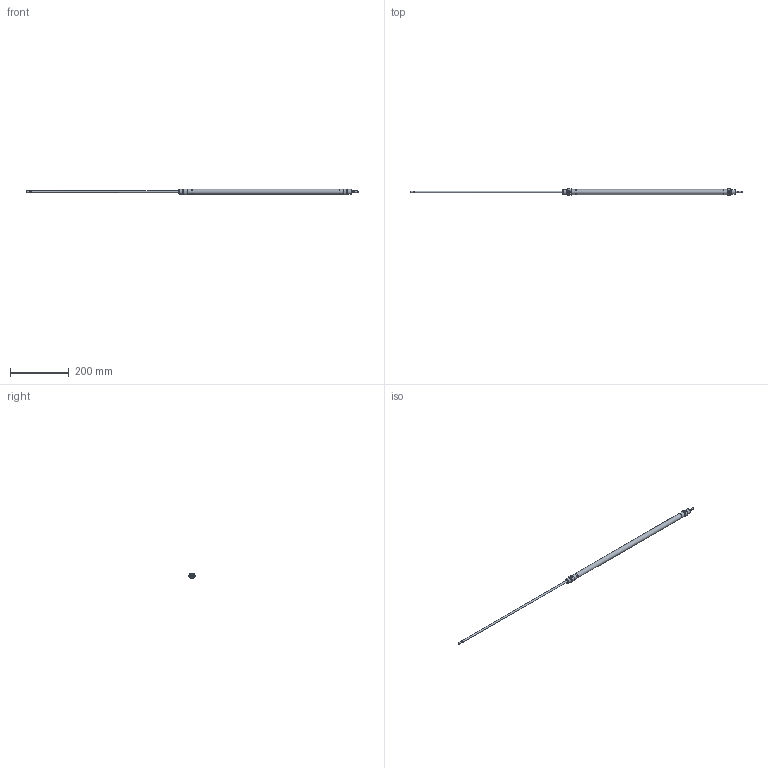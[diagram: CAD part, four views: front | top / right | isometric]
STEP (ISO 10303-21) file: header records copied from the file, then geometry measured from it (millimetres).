
FILE_DESCRIPTION( ( 'STEP AP203' ), '1' );
FILE_NAME( '//expscmdclustefs.cadenas.external/client_exchange/iodir/jobs/output/wkb68413754_no0/STEP/M101-016-0500-M__0__2_03.stp', ' ', ( ' ' ), ( ' ' ), 'PSStep 15.0.47', 'PARTsolutions', ' ' );
FILE_SCHEMA( ( 'CONFIG_CONTROL_DESIGN' ) );
Length unit declared in the file: millimetre
Products named in the file (3): M101-016-0500-M [0]; HI_M101-016-0500-M-[0]-z; HI_M101-016-0500-M-[0]-k
Assembly tree (2 placements, depth 2):
  M101-016-0500-M [0]
    HI_M101-016-0500-M-[0]-z
    HI_M101-016-0500-M-[0]-k
Bounding box: 1132 x 20.94 x 19.09 mm (x, y, z)
Volume: 68029.8 mm3; surface area: 82353.4 mm2
Topology: 2 solids, 2 shells, 67 faces, 135 edges, 82 vertices
Faces by surface type: plane 28, cylinder 23, cone 14, torus 2
Full cylindrical faces by diameter (mm): 4.134 x2, 4.773 x2, 6 x6, 14.16 x4, 16 x6, 17.3 x1
Entity records: 1730 total; most frequent: CARTESIAN_POINT 334, DIRECTION 292, ORIENTED_EDGE 196, AXIS2_PLACEMENT_3D 132, EDGE_LOOP 116, EDGE_CURVE 98, FACE_OUTER_BOUND 90, VERTEX_POINT 78
